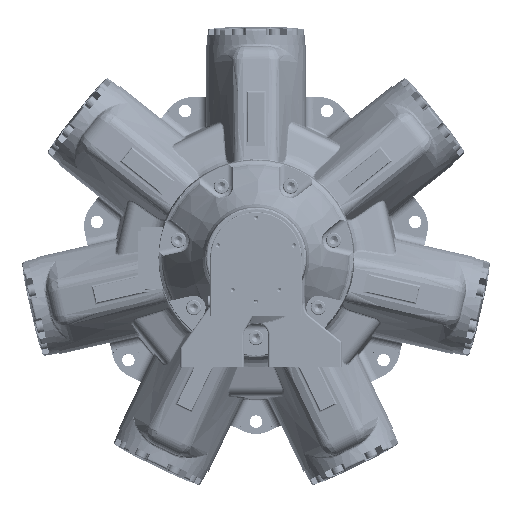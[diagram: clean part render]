
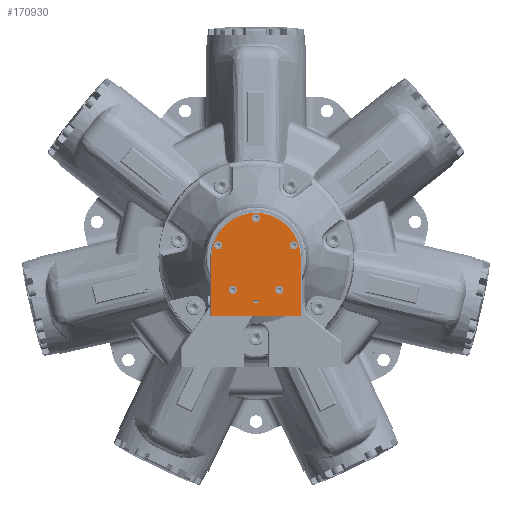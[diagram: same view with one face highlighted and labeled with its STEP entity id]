
A CAD part, top view. The second image highlights one B-rep face of the part: STEP entity #170930.
In plain terms, the highlighted planar face has unit normal (0, 0, 1).
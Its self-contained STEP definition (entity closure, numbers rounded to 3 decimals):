
#170824=CARTESIAN_POINT('',(0.,-24.313,543.507));
#170825=DIRECTION('',(0.0,0.0,-1.0));
#170826=DIRECTION('',(-1.0,0.0,0.0));
#170827=AXIS2_PLACEMENT_3D('',#170824,#170825,#170826);
#170828=PLANE('',#170827);
#170829=CARTESIAN_POINT('',(-71.374,-93.,543.507));
#170830=VERTEX_POINT('',#170829);
#170831=CARTESIAN_POINT('',(71.374,-93.,543.507));
#170832=VERTEX_POINT('',#170831);
#170833=CARTESIAN_POINT('',(-71.374,-93.,543.507));
#170834=DIRECTION('',(1.0,0.0,0.0));
#170835=VECTOR('',#170834,142.748);
#170836=LINE('',#170833,#170835);
#170837=EDGE_CURVE('',#170830,#170832,#170836,.T.);
#170838=ORIENTED_EDGE('',*,*,#170837,.T.);
#170839=CARTESIAN_POINT('',(71.374,0.,543.507));
#170840=VERTEX_POINT('',#170839);
#170841=CARTESIAN_POINT('',(71.374,0.,543.507));
#170842=DIRECTION('',(0.0,-1.0,0.0));
#170843=VECTOR('',#170842,93.);
#170844=LINE('',#170841,#170843);
#170845=EDGE_CURVE('',#170840,#170832,#170844,.T.);
#170846=ORIENTED_EDGE('',*,*,#170845,.F.);
#170847=CARTESIAN_POINT('',(-71.374,0.,543.507));
#170848=VERTEX_POINT('',#170847);
#170849=CARTESIAN_POINT('',(0.,0.,543.507));
#170850=DIRECTION('',(0.0,0.0,-1.0));
#170851=DIRECTION('',(0.0,1.0,0.0));
#170852=AXIS2_PLACEMENT_3D('',#170849,#170850,#170851);
#170853=CIRCLE('',#170852,71.374);
#170854=EDGE_CURVE('',#170848,#170840,#170853,.T.);
#170855=ORIENTED_EDGE('',*,*,#170854,.F.);
#170856=CARTESIAN_POINT('',(-71.374,-93.,543.507));
#170857=DIRECTION('',(0.0,1.0,0.0));
#170858=VECTOR('',#170857,93.0);
#170859=LINE('',#170856,#170858);
#170860=EDGE_CURVE('',#170830,#170848,#170859,.T.);
#170861=ORIENTED_EDGE('',*,*,#170860,.F.);
#170862=EDGE_LOOP('',(#170838,#170846,#170855,#170861));
#170863=FACE_OUTER_BOUND('',#170862,.T.);
#170864=CARTESIAN_POINT('',(-58.43,25.662,543.507));
#170865=VERTEX_POINT('',#170864);
#170866=CARTESIAN_POINT('',(-60.392,19.623,543.507));
#170867=DIRECTION('',(0.,0.,-1.0));
#170868=DIRECTION('',(0.309,0.951,0.));
#170869=AXIS2_PLACEMENT_3D('',#170866,#170867,#170868);
#170870=CIRCLE('',#170869,6.35);
#170871=EDGE_CURVE('',#170865,#170865,#170870,.T.);
#170872=ORIENTED_EDGE('',*,*,#170871,.T.);
#170873=EDGE_LOOP('',(#170872));
#170874=FACE_BOUND('',#170873,.T.);
#170875=CARTESIAN_POINT('',(-42.462,-47.64,543.507));
#170876=VERTEX_POINT('',#170875);
#170877=CARTESIAN_POINT('',(-37.324,-51.373,543.507));
#170878=DIRECTION('',(0.,0.,-1.0));
#170879=DIRECTION('',(-0.809,0.588,0.));
#170880=AXIS2_PLACEMENT_3D('',#170877,#170878,#170879);
#170881=CIRCLE('',#170880,6.35);
#170882=EDGE_CURVE('',#170876,#170876,#170881,.T.);
#170883=ORIENTED_EDGE('',*,*,#170882,.T.);
#170884=EDGE_LOOP('',(#170883));
#170885=FACE_BOUND('',#170884,.T.);
#170886=CARTESIAN_POINT('',(32.187,-55.105,543.507));
#170887=VERTEX_POINT('',#170886);
#170888=CARTESIAN_POINT('',(37.324,-51.373,543.507));
#170889=DIRECTION('',(0.,0.,-1.));
#170890=DIRECTION('',(-0.809,-0.588,0.));
#170891=AXIS2_PLACEMENT_3D('',#170888,#170889,#170890);
#170892=CIRCLE('',#170891,6.35);
#170893=EDGE_CURVE('',#170887,#170887,#170892,.T.);
#170894=ORIENTED_EDGE('',*,*,#170893,.T.);
#170895=EDGE_LOOP('',(#170894));
#170896=FACE_BOUND('',#170895,.T.);
#170897=CARTESIAN_POINT('',(62.354,13.583,543.507));
#170898=VERTEX_POINT('',#170897);
#170899=CARTESIAN_POINT('',(60.392,19.623,543.507));
#170900=DIRECTION('',(0.,0.,-1.0));
#170901=DIRECTION('',(0.309,-0.951,0.));
#170902=AXIS2_PLACEMENT_3D('',#170899,#170900,#170901);
#170903=CIRCLE('',#170902,6.35);
#170904=EDGE_CURVE('',#170898,#170898,#170903,.T.);
#170905=ORIENTED_EDGE('',*,*,#170904,.T.);
#170906=EDGE_LOOP('',(#170905));
#170907=FACE_BOUND('',#170906,.T.);
#170908=CARTESIAN_POINT('',(6.35,63.5,543.507));
#170909=VERTEX_POINT('',#170908);
#170910=CARTESIAN_POINT('',(0.,63.5,543.507));
#170911=DIRECTION('',(0.0,0.0,-1.0));
#170912=DIRECTION('',(1.0,0.0,0.0));
#170913=AXIS2_PLACEMENT_3D('',#170910,#170911,#170912);
#170914=CIRCLE('',#170913,6.35);
#170915=EDGE_CURVE('',#170909,#170909,#170914,.T.);
#170916=ORIENTED_EDGE('',*,*,#170915,.T.);
#170917=EDGE_LOOP('',(#170916));
#170918=FACE_BOUND('',#170917,.T.);
#170919=CARTESIAN_POINT('',(3.1,-70.,543.507));
#170920=VERTEX_POINT('',#170919);
#170921=CARTESIAN_POINT('',(0.,-70.,543.507));
#170922=DIRECTION('',(0.0,0.0,-1.0));
#170923=DIRECTION('',(1.0,0.0,0.0));
#170924=AXIS2_PLACEMENT_3D('',#170921,#170922,#170923);
#170925=CIRCLE('',#170924,3.1);
#170926=EDGE_CURVE('',#170920,#170920,#170925,.T.);
#170927=ORIENTED_EDGE('',*,*,#170926,.T.);
#170928=EDGE_LOOP('',(#170927));
#170929=FACE_BOUND('',#170928,.T.);
#170930=ADVANCED_FACE('',(#170863,#170874,#170885,#170896,#170907,#170918,#170929),#170828,.F.);
